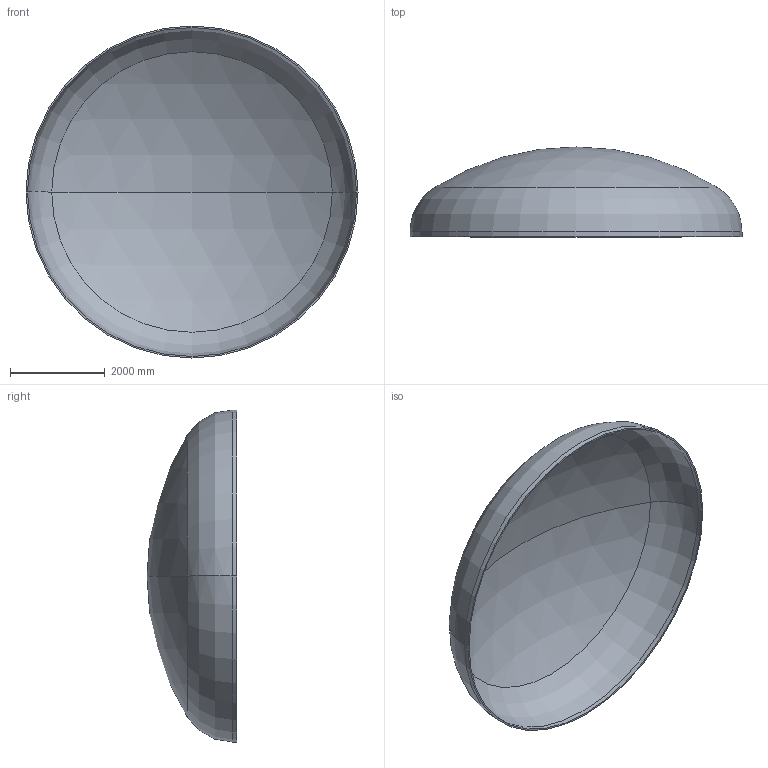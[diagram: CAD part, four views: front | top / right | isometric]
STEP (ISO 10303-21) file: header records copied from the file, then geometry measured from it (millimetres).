
FILE_DESCRIPTION (( 'STEP AP203' ), '1' );
FILE_NAME ('DIN 28013 Korbbogenform_-_Boden DIN 28013 - 7000 x 100 - I - s=32.step', '2016-07-04T10:46:37', ( '' ), ( '' ), 'SwSTEP 2.0', 'SolidWorks 2013', '' );
FILE_SCHEMA (( 'CONFIG_CONTROL_DESIGN' ));
Length unit declared in the file: millimetre
Products named in the file (1): DIN 28013 Korbbogenform_-_Boden DIN 28013 - 7000 x 100 - I - s=32
Bounding box: 7000 x 1894.31 x 7000 mm (x, y, z)
Volume: 1766072205.3 mm3; surface area: 111082113.4 mm2
Topology: 1 solids, 1 shells, 13 faces, 24 edges, 14 vertices
Faces by surface type: torus 4, cylinder 4, sphere 4, plane 1
Entity records: 407 total; most frequent: DIRECTION 72, CARTESIAN_POINT 52, ORIENTED_EDGE 48, AXIS2_PLACEMENT_3D 34, EDGE_CURVE 24, CIRCLE 20, EDGE_LOOP 14, VERTEX_POINT 14
